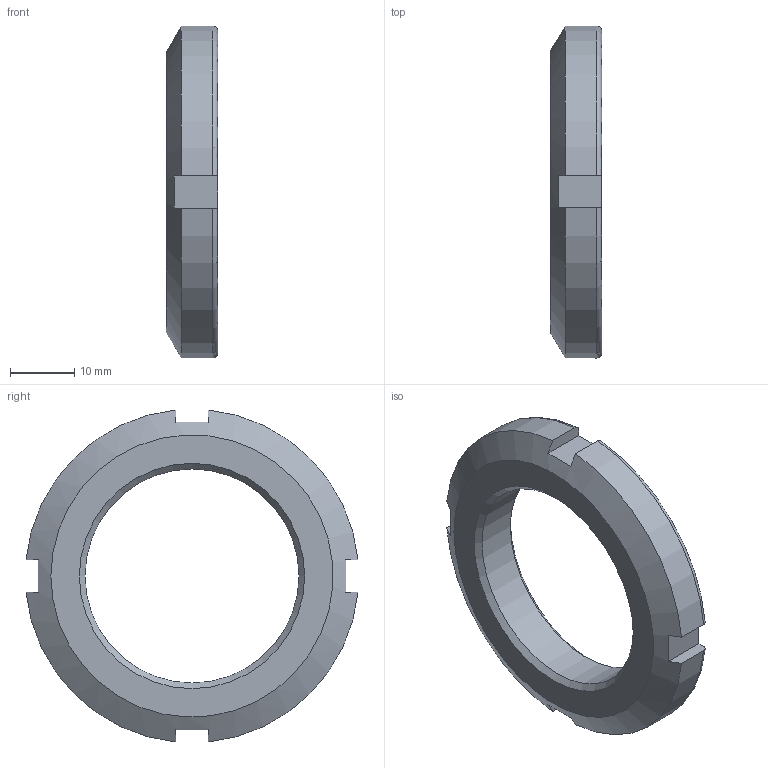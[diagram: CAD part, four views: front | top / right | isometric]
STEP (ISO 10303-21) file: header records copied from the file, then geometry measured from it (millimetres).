
FILE_DESCRIPTION(/* description */ ('Locknuts and locking devices-Dimensions - Locknuts(4 slots)'),/* implementation_level */ '2;1');
FILE_NAME(/* name */ 'D:\lock nut\LOCK NUT ISO 2982-2 - M35 x 1,5 x 44.stp',/* time_stamp */ '2022-04-01T13:48:45+07:00',/* author */ ('USER'),/* organization */ (''),/* preprocessor_version */ 'ST-DEVELOPER v16.1',/* originating_system */ 'Autodesk Inventor 2016',/* authorisation */ '');
FILE_SCHEMA (('AUTOMOTIVE_DESIGN { 1 0 10303 214 3 1 1 }'));
Length unit declared in the file: millimetre
Products named in the file (1): LOCK NUT ISO 2982-2 - M35 x 1,5 x 44
Bounding box: 8 x 51.76 x 51.76 mm (x, y, z)
Volume: 8928.3 mm3; surface area: 4234.9 mm2
Topology: 1 solids, 1 shells, 26 faces, 72 edges, 48 vertices
Faces by surface type: plane 14, cylinder 5, torus 4, cone 3
Full cylindrical faces by diameter (mm): 33.376 x1
Entity records: 858 total; most frequent: CARTESIAN_POINT 233, ORIENTED_EDGE 130, DIRECTION 116, EDGE_CURVE 65, VERTEX_POINT 45, AXIS2_PLACEMENT_3D 44, EDGE_LOOP 32, LINE 28
